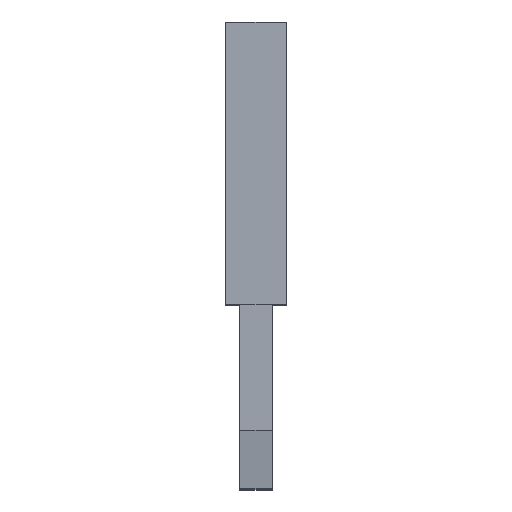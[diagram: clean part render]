
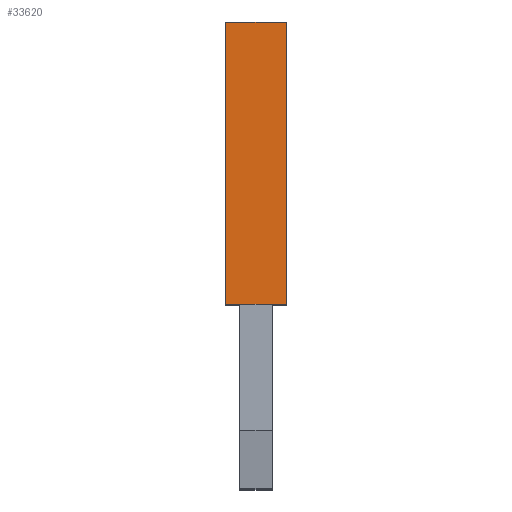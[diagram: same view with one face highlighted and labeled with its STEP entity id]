
A CAD part, top view. The second image highlights one B-rep face of the part: STEP entity #33620.
In plain terms, the highlighted planar face has unit normal (0, 0, 1).
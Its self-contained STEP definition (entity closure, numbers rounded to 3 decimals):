
#60=CARTESIAN_POINT('',(2.607,-12.305,68.76));
#70=DIRECTION('',(0.,1.,0.));
#80=VECTOR('',#70,1.);
#90=LINE('',#60,#80);
#100=CARTESIAN_POINT('',(2.607,-22.775,
68.76));
#110=VERTEX_POINT('',#100);
#120=CARTESIAN_POINT('',(2.607,-8.875,
68.76));
#130=VERTEX_POINT('',#120);
#140=EDGE_CURVE('',#110,#130,#90,.T.);
#3630=CARTESIAN_POINT('',(5.607,-22.775,
68.76));
#3640=VERTEX_POINT('',#3630);
#3670=CARTESIAN_POINT('',(5.607,-12.305,68.76))
;
#3680=DIRECTION('',(0.,1.,0.));
#3690=VECTOR('',#3680,1.);
#3700=LINE('',#3670,#3690);
#3710=CARTESIAN_POINT('',(5.607,-8.875,
68.76));
#3720=VERTEX_POINT('',#3710);
#3730=EDGE_CURVE('',#3640,#3720,#3700,.T.);
#7050=CARTESIAN_POINT('',(5.607,-22.775,
68.76));
#7060=DIRECTION('',(-1.,0.,0.));
#7070=VECTOR('',#7060,1.);
#7080=LINE('',#7050,#7070);
#7090=EDGE_CURVE('',#3640,#110,#7080,.T.);
#33460=CARTESIAN_POINT('',(5.607,-9.175,
68.76));
#33470=DIRECTION('',(0.,-0.,1.));
#33480=DIRECTION('',(0.,1.,0.));
#33490=AXIS2_PLACEMENT_3D('',#33460,#33470,#33480);
#33500=PLANE('',#33490);
#33510=ORIENTED_EDGE('',*,*,#7090,.F.);
#33520=ORIENTED_EDGE('',*,*,#140,.F.);
#33530=CARTESIAN_POINT('',(5.607,-8.875,
68.76));
#33540=DIRECTION('',(1.,0.,0.));
#33550=VECTOR('',#33540,1.);
#33560=LINE('',#33530,#33550);
#33570=EDGE_CURVE('',#130,#3720,#33560,.T.);
#33580=ORIENTED_EDGE('',*,*,#33570,.F.);
#33590=ORIENTED_EDGE('',*,*,#3730,.T.);
#33600=EDGE_LOOP('',(#33590,#33580,#33520,#33510));
#33610=FACE_OUTER_BOUND('',#33600,.T.);
#33620=ADVANCED_FACE('',(#33610),#33500,.T.);
